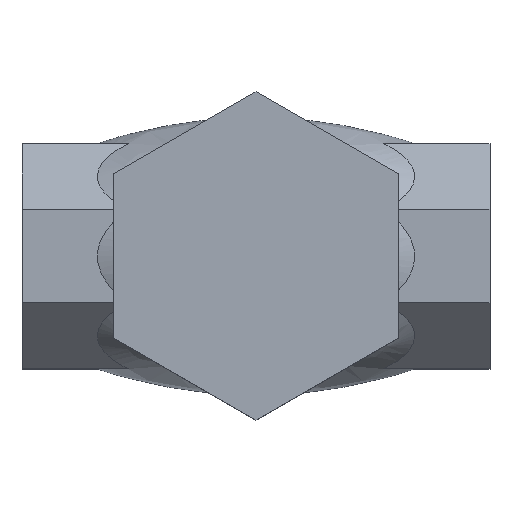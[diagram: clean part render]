
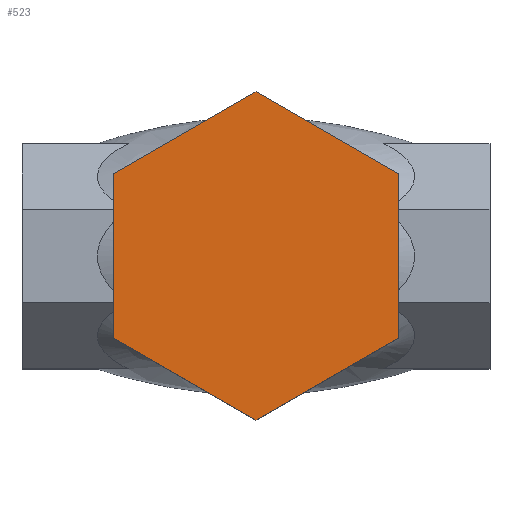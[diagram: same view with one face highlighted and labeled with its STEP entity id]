
A CAD part, top view. The second image highlights one B-rep face of the part: STEP entity #523.
In plain terms, the highlighted planar face has unit normal (0, 0, 1).
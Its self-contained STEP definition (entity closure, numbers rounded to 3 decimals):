
#47=FACE_OUTER_BOUND('',#75,.T.);
#75=EDGE_LOOP('',(#458,#459,#460,#461,#462,#463));
#111=LINE('',#1348,#162);
#115=LINE('',#1356,#166);
#118=LINE('',#1362,#169);
#121=LINE('',#1368,#172);
#124=LINE('',#1374,#175);
#127=LINE('',#1379,#178);
#162=VECTOR('',#644,10.);
#166=VECTOR('',#650,10.);
#169=VECTOR('',#655,10.);
#172=VECTOR('',#660,10.);
#175=VECTOR('',#665,10.);
#178=VECTOR('',#670,10.);
#237=VERTEX_POINT('',#1346);
#238=VERTEX_POINT('',#1347);
#241=VERTEX_POINT('',#1355);
#243=VERTEX_POINT('',#1361);
#245=VERTEX_POINT('',#1367);
#247=VERTEX_POINT('',#1373);
#305=EDGE_CURVE('',#237,#238,#111,.T.);
#309=EDGE_CURVE('',#238,#241,#115,.T.);
#312=EDGE_CURVE('',#241,#243,#118,.T.);
#315=EDGE_CURVE('',#243,#245,#121,.T.);
#318=EDGE_CURVE('',#245,#247,#124,.T.);
#321=EDGE_CURVE('',#247,#237,#127,.T.);
#458=ORIENTED_EDGE('',*,*,#321,.T.);
#459=ORIENTED_EDGE('',*,*,#305,.T.);
#460=ORIENTED_EDGE('',*,*,#309,.T.);
#461=ORIENTED_EDGE('',*,*,#312,.T.);
#462=ORIENTED_EDGE('',*,*,#315,.T.);
#463=ORIENTED_EDGE('',*,*,#318,.T.);
#495=PLANE('',#565);
#523=ADVANCED_FACE('',(#47),#495,.T.);
#565=AXIS2_PLACEMENT_3D('',#1381,#672,#673);
#644=DIRECTION('',(0.866,-0.5,0.));
#650=DIRECTION('',(0.866,0.5,0.));
#655=DIRECTION('',(0.,1.,0.));
#660=DIRECTION('',(-0.866,0.5,0.));
#665=DIRECTION('',(-0.866,-0.5,0.));
#670=DIRECTION('',(0.,-1.,0.));
#672=DIRECTION('center_axis',(0.,0.,1.));
#673=DIRECTION('ref_axis',(1.,0.,0.));
#1346=CARTESIAN_POINT('',(-41.,-23.671,74.));
#1347=CARTESIAN_POINT('',(0.,-47.343,74.));
#1348=CARTESIAN_POINT('',(-41.,-23.671,74.));
#1355=CARTESIAN_POINT('',(41.,-23.671,74.));
#1356=CARTESIAN_POINT('',(0.,-47.343,74.));
#1361=CARTESIAN_POINT('',(41.,23.671,74.));
#1362=CARTESIAN_POINT('',(41.,-23.671,74.));
#1367=CARTESIAN_POINT('',(0.,47.343,74.));
#1368=CARTESIAN_POINT('',(41.,23.671,74.));
#1373=CARTESIAN_POINT('',(-41.,23.671,74.));
#1374=CARTESIAN_POINT('',(0.,47.343,74.));
#1379=CARTESIAN_POINT('',(-41.,23.671,74.));
#1381=CARTESIAN_POINT('Origin',(0.,0.,
74.));
